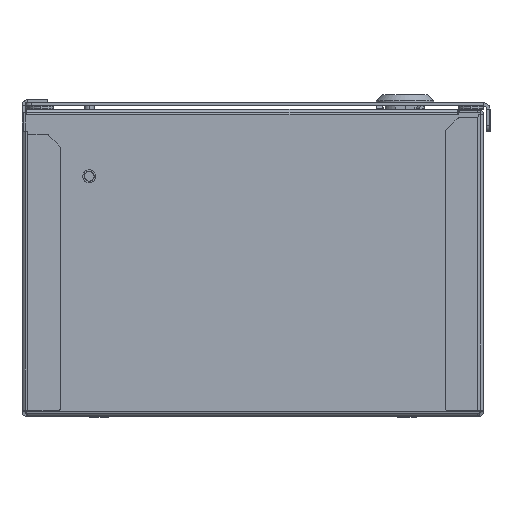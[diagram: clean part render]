
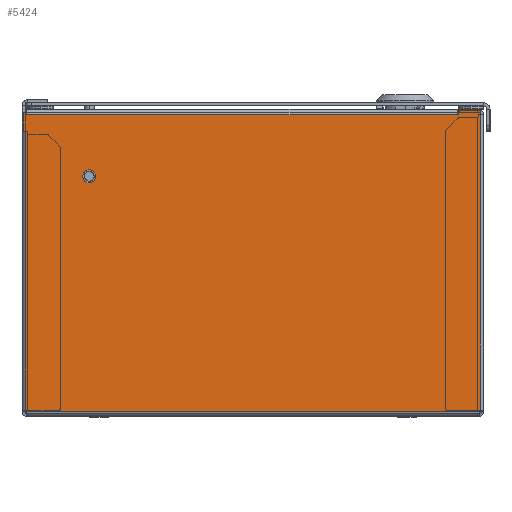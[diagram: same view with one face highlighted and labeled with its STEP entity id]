
A CAD part, left-side view. The second image highlights one B-rep face of the part: STEP entity #5424.
In plain terms, the highlighted planar face has unit normal (-1, 0, 0).
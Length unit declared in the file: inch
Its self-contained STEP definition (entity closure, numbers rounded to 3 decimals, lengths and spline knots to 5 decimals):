
#312=CARTESIAN_POINT('',(-18.,4.44,0.112));
#317=DIRECTION('',(0.,-1.,0.));
#318=VECTOR('',#317,8.88);
#319=CARTESIAN_POINT('',(-18.,4.44,0.112));
#320=LINE('',#319,#318);
#540=CARTESIAN_POINT('',(-18.,-4.44,0.112));
#579=DIRECTION('',(0.,0.,1.));
#580=VECTOR('',#579,5.838);
#581=CARTESIAN_POINT('',(-18.,-4.44,0.112));
#582=LINE('',#581,#580);
#586=CARTESIAN_POINT('',(-18.,3.19,4.69));
#587=DIRECTION('',(-1.,0.,0.));
#588=DIRECTION('',(0.,0.,-1.));
#589=AXIS2_PLACEMENT_3D('',#586,#587,#588);
#594=CARTESIAN_POINT('',(-18.,3.19,4.69));
#595=DIRECTION('',(-1.,0.,0.));
#596=DIRECTION('',(0.,0.,1.));
#597=AXIS2_PLACEMENT_3D('',#594,#595,#596);
#602=CARTESIAN_POINT('',(-18.,-4.02877,5.95));
#603=DIRECTION('',(-1.,0.,0.));
#604=DIRECTION('',(0.,0.,1.));
#605=AXIS2_PLACEMENT_3D('',#602,#603,#604);
#610=DIRECTION('',(0.,1.,0.));
#611=VECTOR('',#610,0.39123);
#612=CARTESIAN_POINT('',(-18.,-4.42,5.97));
#613=LINE('',#612,#611);
#617=CARTESIAN_POINT('',(-18.,-4.42,5.95));
#618=DIRECTION('',(-1.,0.,0.));
#619=DIRECTION('',(0.,-1.,0.));
#620=AXIS2_PLACEMENT_3D('',#617,#618,#619);
#625=DIRECTION('',(0.,0.,1.));
#626=VECTOR('',#625,5.453);
#627=CARTESIAN_POINT('',(-18.,4.44,0.112));
#628=LINE('',#627,#626);
#632=DIRECTION('',(0.,-1.,0.));
#633=VECTOR('',#632,0.01);
#634=CARTESIAN_POINT('',(-18.,4.45,5.565));
#635=LINE('',#634,#633);
#639=CARTESIAN_POINT('',(-18.,4.45,5.585));
#640=DIRECTION('',(-1.,0.,0.));
#641=DIRECTION('',(0.,1.,0.));
#642=AXIS2_PLACEMENT_3D('',#639,#640,#641);
#647=DIRECTION('',(0.,0.,-1.));
#648=VECTOR('',#647,0.335);
#649=CARTESIAN_POINT('',(-18.,4.47,5.92));
#650=LINE('',#649,#648);
#654=CARTESIAN_POINT('',(-18.,4.45,5.92));
#655=DIRECTION('',(-1.,0.,0.));
#656=DIRECTION('',(0.,0.,1.));
#657=AXIS2_PLACEMENT_3D('',#654,#655,#656);
#662=DIRECTION('',(0.,-0.174,-0.985));
#663=VECTOR('',#662,0.0528);
#664=CARTESIAN_POINT('',(-18.,4.43477,5.94));
#665=LINE('',#664,#663);
#669=DIRECTION('',(0.,1.,0.));
#670=VECTOR('',#669,0.0156);
#671=CARTESIAN_POINT('',(-18.,4.41,5.888));
#672=LINE('',#671,#670);
#676=DIRECTION('',(0.,-1.,0.));
#677=VECTOR('',#676,0.0156);
#678=CARTESIAN_POINT('',(-18.,-3.984,5.888));
#679=LINE('',#678,#677);
#683=DIRECTION('',(0.,0.174,-0.985));
#684=VECTOR('',#683,0.0528);
#685=CARTESIAN_POINT('',(-18.,-4.00877,5.94));
#686=LINE('',#685,#684);
#690=DIRECTION('',(0.,0.,-1.));
#691=VECTOR('',#690,0.01);
#692=CARTESIAN_POINT('',(-18.,-4.00877,5.95));
#693=LINE('',#692,#691);
#905=DIRECTION('',(0.,-1.,0.));
#906=VECTOR('',#905,8.394);
#907=CARTESIAN_POINT('',(-18.,4.41,5.888));
#908=LINE('',#907,#906);
#1111=DIRECTION('',(0.,1.,0.));
#1112=VECTOR('',#1111,0.01523);
#1113=CARTESIAN_POINT('',(-18.,4.43477,5.94));
#1114=LINE('',#1113,#1112);
#4119=VERTEX_POINT('',#312);
#4120=VERTEX_POINT('',#540);
#4192=CARTESIAN_POINT('',(-18.,4.41,5.888));
#4193=CARTESIAN_POINT('',(-18.,4.4256,5.888));
#4194=VERTEX_POINT('',#4192);
#4195=VERTEX_POINT('',#4193);
#4196=CARTESIAN_POINT('',(-18.,4.43477,5.94));
#4197=VERTEX_POINT('',#4196);
#4204=CARTESIAN_POINT('',(-18.,-3.984,5.888));
#4205=CARTESIAN_POINT('',(-18.,-3.9996,5.888));
#4206=VERTEX_POINT('',#4204);
#4207=VERTEX_POINT('',#4205);
#4208=CARTESIAN_POINT('',(-18.,-4.00877,5.94));
#4209=VERTEX_POINT('',#4208);
#4352=CARTESIAN_POINT('',(-18.,-4.02877,5.97));
#4353=CARTESIAN_POINT('',(-18.,-4.00877,5.95));
#4354=VERTEX_POINT('',#4352);
#4355=VERTEX_POINT('',#4353);
#4372=CARTESIAN_POINT('',(-18.,-4.42,5.97));
#4373=VERTEX_POINT('',#4372);
#4638=CARTESIAN_POINT('',(-18.,4.44,5.565));
#4640=VERTEX_POINT('',#4638);
#4642=CARTESIAN_POINT('',(-18.,-4.44,5.95));
#4643=VERTEX_POINT('',#4642);
#4666=CARTESIAN_POINT('',(-18.,4.47,5.585));
#4667=CARTESIAN_POINT('',(-18.,4.45,5.565));
#4668=VERTEX_POINT('',#4666);
#4669=VERTEX_POINT('',#4667);
#4674=CARTESIAN_POINT('',(-18.,4.45,5.94));
#4675=CARTESIAN_POINT('',(-18.,4.47,5.92));
#4676=VERTEX_POINT('',#4674);
#4677=VERTEX_POINT('',#4675);
#4738=CARTESIAN_POINT('',(-18.,3.19,4.59345));
#4739=CARTESIAN_POINT('',(-18.,3.19,4.78655));
#4740=VERTEX_POINT('',#4738);
#4741=VERTEX_POINT('',#4739);
#5380=CARTESIAN_POINT('',(-18.,4.5,0.));
#5381=DIRECTION('',(-1.,0.,0.));
#5382=DIRECTION('',(0.,-1.,0.));
#5383=AXIS2_PLACEMENT_3D('',#5380,#5381,#5382);
#5384=PLANE('',#5383);
#5386=ORIENTED_EDGE('',*,*,#5385,.F.);
#5388=ORIENTED_EDGE('',*,*,#5387,.F.);
#5389=ORIENTED_EDGE('',*,*,#5370,.F.);
#5390=ORIENTED_EDGE('',*,*,#5360,.F.);
#5391=ORIENTED_EDGE('',*,*,#4862,.F.);
#5393=ORIENTED_EDGE('',*,*,#5392,.T.);
#5395=ORIENTED_EDGE('',*,*,#5394,.F.);
#5397=ORIENTED_EDGE('',*,*,#5396,.F.);
#5399=ORIENTED_EDGE('',*,*,#5398,.F.);
#5401=ORIENTED_EDGE('',*,*,#5400,.F.);
#5403=ORIENTED_EDGE('',*,*,#5402,.F.);
#5405=ORIENTED_EDGE('',*,*,#5404,.T.);
#5407=ORIENTED_EDGE('',*,*,#5406,.F.);
#5409=ORIENTED_EDGE('',*,*,#5408,.T.);
#5411=ORIENTED_EDGE('',*,*,#5410,.T.);
#5413=ORIENTED_EDGE('',*,*,#5412,.F.);
#5415=ORIENTED_EDGE('',*,*,#5414,.F.);
#5416=EDGE_LOOP('',(#5386,#5388,#5389,#5390,#5391,#5393,#5395,#5397,#5399,#5401,
#5403,#5405,#5407,#5409,#5411,#5413,#5415));
#5417=FACE_OUTER_BOUND('',#5416,.F.);
#5419=ORIENTED_EDGE('',*,*,#5418,.T.);
#5421=ORIENTED_EDGE('',*,*,#5420,.T.);
#5422=EDGE_LOOP('',(#5419,#5421));
#5423=FACE_BOUND('',#5422,.F.);
#590=CIRCLE('',#589,0.09655);
#598=CIRCLE('',#597,0.09655);
#606=CIRCLE('',#605,0.02);
#621=CIRCLE('',#620,0.02);
#643=CIRCLE('',#642,0.02);
#658=CIRCLE('',#657,0.02);
#4862=EDGE_CURVE('',#4119,#4120,#320,.T.);
#5360=EDGE_CURVE('',#4120,#4643,#582,.T.);
#5370=EDGE_CURVE('',#4643,#4373,#621,.T.);
#5385=EDGE_CURVE('',#4354,#4355,#606,.T.);
#5387=EDGE_CURVE('',#4373,#4354,#613,.T.);
#5392=EDGE_CURVE('',#4119,#4640,#628,.T.);
#5394=EDGE_CURVE('',#4669,#4640,#635,.T.);
#5396=EDGE_CURVE('',#4668,#4669,#643,.T.);
#5398=EDGE_CURVE('',#4677,#4668,#650,.T.);
#5400=EDGE_CURVE('',#4676,#4677,#658,.T.);
#5402=EDGE_CURVE('',#4197,#4676,#1114,.T.);
#5404=EDGE_CURVE('',#4197,#4195,#665,.T.);
#5406=EDGE_CURVE('',#4194,#4195,#672,.T.);
#5408=EDGE_CURVE('',#4194,#4206,#908,.T.);
#5410=EDGE_CURVE('',#4206,#4207,#679,.T.);
#5412=EDGE_CURVE('',#4209,#4207,#686,.T.);
#5414=EDGE_CURVE('',#4355,#4209,#693,.T.);
#5418=EDGE_CURVE('',#4740,#4741,#590,.T.);
#5420=EDGE_CURVE('',#4741,#4740,#598,.T.);
#5424=ADVANCED_FACE('',(#5417,#5423),#5384,.T.);
